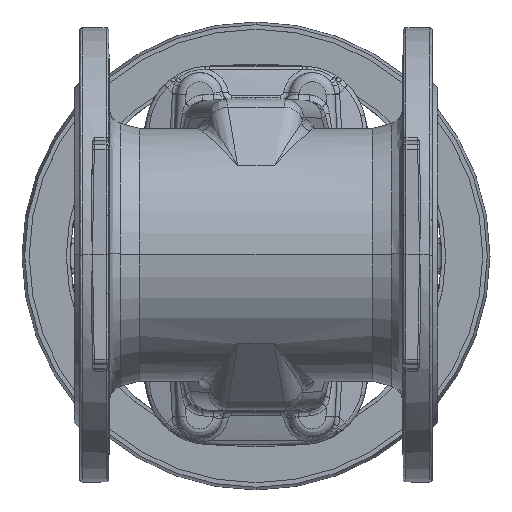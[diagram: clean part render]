
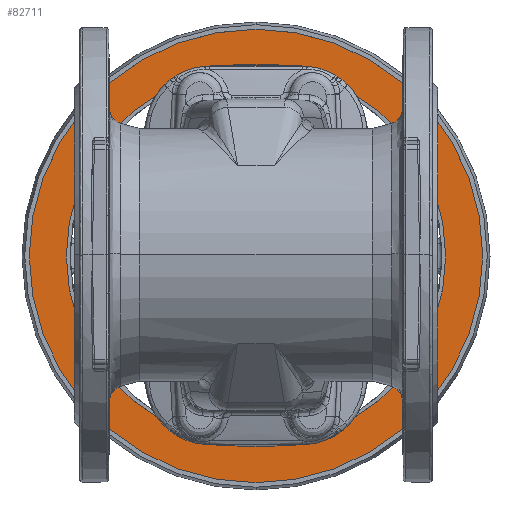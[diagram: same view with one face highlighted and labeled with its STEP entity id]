
A CAD part, top view. The second image highlights one B-rep face of the part: STEP entity #82711.
In plain terms, the highlighted planar face has unit normal (0, 0, 1).
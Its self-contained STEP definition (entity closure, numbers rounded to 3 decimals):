
#3296 = ORIENTED_EDGE ( 'NONE', *, *, #38075, .T. ) ;
#5997 = EDGE_CURVE ( 'NONE', #60360, #39751, #15360, .T. ) ;
#6505 = DIRECTION ( 'NONE',  ( 0., 0., 1. ) ) ;
#7041 = DIRECTION ( 'NONE',  ( 0., -1., 0. ) ) ;
#7436 = EDGE_CURVE ( 'NONE', #114236, #39182, #108836, .T. ) ;
#8367 = EDGE_LOOP ( 'NONE', ( #125468, #45499 ) ) ;
#9440 = CIRCLE ( 'NONE', #86376, 104.353 ) ;
#13989 = CIRCLE ( 'NONE', #93003, 124.75 ) ;
#15360 = CIRCLE ( 'NONE', #73520, 104.353 ) ;
#21960 = AXIS2_PLACEMENT_3D ( 'NONE', #65609, #122936, #53914 ) ;
#25270 = FACE_OUTER_BOUND ( 'NONE', #125463, .T. ) ;
#27033 = CARTESIAN_POINT ( 'NONE',  ( 0., 0., -193.1 ) ) ;
#38075 = EDGE_CURVE ( 'NONE', #39182, #114236, #13989, .T. ) ;
#38681 = DIRECTION ( 'NONE',  ( 0., 0., 1. ) ) ;
#39182 = VERTEX_POINT ( 'NONE', #90818 ) ;
#39751 = VERTEX_POINT ( 'NONE', #44339 ) ;
#44339 = CARTESIAN_POINT ( 'NONE',  ( 0., -104.353, -193.1 ) ) ;
#45499 = ORIENTED_EDGE ( 'NONE', *, *, #5997, .F. ) ;
#53914 = DIRECTION ( 'NONE',  ( 0., 1., 0. ) ) ;
#56966 = DIRECTION ( 'NONE',  ( 0., -1., 0. ) ) ;
#57009 = CARTESIAN_POINT ( 'NONE',  ( 0., 104.353, -193.1 ) ) ;
#60360 = VERTEX_POINT ( 'NONE', #57009 ) ;
#62029 = DIRECTION ( 'NONE',  ( 0., -1., 0. ) ) ;
#64843 = CARTESIAN_POINT ( 'NONE',  ( 0., 0., -193.1 ) ) ;
#65609 = CARTESIAN_POINT ( 'NONE',  ( 104.353, 0., -193.1 ) ) ;
#66889 = DIRECTION ( 'NONE',  ( 0., 0., 1. ) ) ;
#71463 = AXIS2_PLACEMENT_3D ( 'NONE', #64843, #88221, #56966 ) ;
#73520 = AXIS2_PLACEMENT_3D ( 'NONE', #108535, #66889, #7041 ) ;
#74122 = FACE_BOUND ( 'NONE', #8367, .T. ) ;
#82711 = ADVANCED_FACE ( 'NONE', ( #74122, #25270 ), #103430, .F. ) ;
#84021 = CARTESIAN_POINT ( 'NONE',  ( 0., -124.75, -193.1 ) ) ;
#86376 = AXIS2_PLACEMENT_3D ( 'NONE', #27033, #38681, #96074 ) ;
#88221 = DIRECTION ( 'NONE',  ( 0., 0., 1. ) ) ;
#90818 = CARTESIAN_POINT ( 'NONE',  ( 0., 124.75, -193.1 ) ) ;
#93003 = AXIS2_PLACEMENT_3D ( 'NONE', #111524, #6505, #62029 ) ;
#93108 = EDGE_CURVE ( 'NONE', #39751, #60360, #9440, .T. ) ;
#96074 = DIRECTION ( 'NONE',  ( 0., -1., 0. ) ) ;
#103430 = PLANE ( 'NONE',  #21960 ) ;
#108535 = CARTESIAN_POINT ( 'NONE',  ( 0., 0., -193.1 ) ) ;
#108836 = CIRCLE ( 'NONE', #71463, 124.75 ) ;
#111524 = CARTESIAN_POINT ( 'NONE',  ( 0., 0., -193.1 ) ) ;
#114236 = VERTEX_POINT ( 'NONE', #84021 ) ;
#122936 = DIRECTION ( 'NONE',  ( 0., 0., -1. ) ) ;
#123483 = ORIENTED_EDGE ( 'NONE', *, *, #7436, .T. ) ;
#125463 = EDGE_LOOP ( 'NONE', ( #123483, #3296 ) ) ;
#125468 = ORIENTED_EDGE ( 'NONE', *, *, #93108, .F. ) ;
